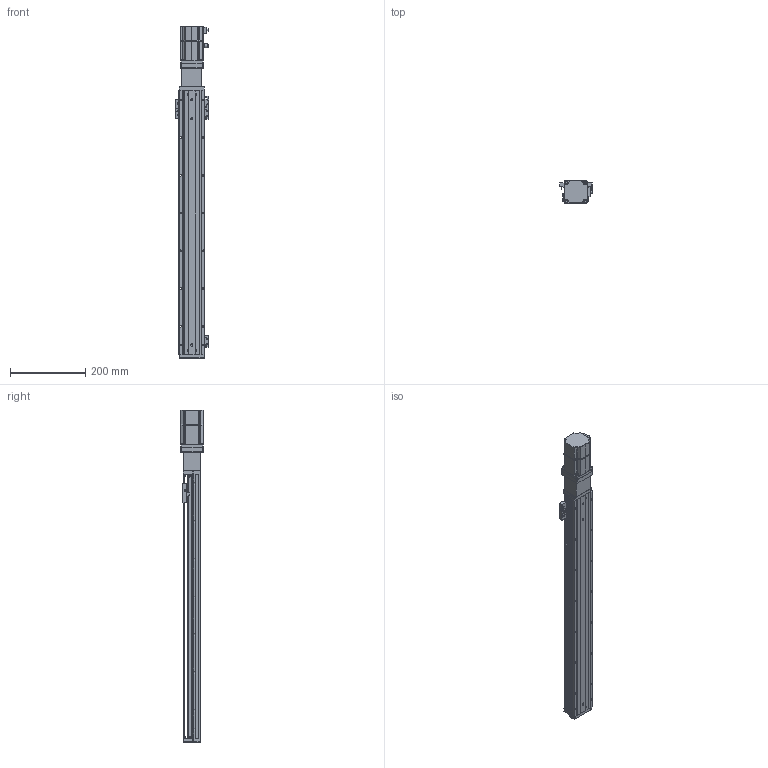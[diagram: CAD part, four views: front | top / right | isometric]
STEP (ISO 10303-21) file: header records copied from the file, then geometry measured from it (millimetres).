
FILE_DESCRIPTION (( 'STEP AP203' ), '1' );
FILE_NAME ('KTHA60-600-BC-M20-C4L.step', '2022-12-16T01:29:44', ( '微软用户' ), ( '微软中国' ), 'SwSTEP 2.0', 'SolidWorks 2020', '' );
FILE_SCHEMA (( 'CONFIG_CONTROL_DESIGN' ));
Length unit declared in the file: millimetre
Products named in the file (18): GBT 70.3-M3℅6; CTHA60-016; EE_SX911P_R; CTHA60-013; CTHA60-017; CTHA60-027; KTHA60-001_700; CTHA60-021; KTHA60-002; CTHA60-006-3_M20B; KTHA60-004; GBT 70.1-M4×16; _X2_4E0983F1_X0_200W_1; KTHA60-005; GBT77-2000M3-3; KTHA60-600-BC-M20-C4L; GB¨uT 70.2-M3¡Á5_M3¡Á6; GBT 70.1-M3℅6
Assembly tree (50 placements, depth 2):
  KTHA60-600-BC-M20-C4L
    KTHA60-001_700
    KTHA60-004
    KTHA60-005
    GB¨uT 70.2-M3¡Á5_M3¡Á6  x6
    GBT 70.3-M3℅6  x6
    EE_SX911P_R  x3
    CTHA60-017  x3
    CTHA60-021  x2
    GBT 70.1-M4×16  x8
    GBT77-2000M3-3  x6
    GBT 70.1-M3℅6  x6
    CTHA60-016  x2
    CTHA60-013
    CTHA60-027
    KTHA60-002
    CTHA60-006-3_M20B
    _X2_4E0983F1_X0_200W_1
Bounding box: 87.72 x 62.42 x 879.7 mm (x, y, z)
Volume: 1642857.4 mm3; surface area: 399476 mm2
Topology: 53 solids, 53 shells, 2335 faces, 5539 edges, 3392 vertices
Faces by surface type: plane 1268, cylinder 600, cone 302, torus 80, bspline 69, sphere 16
Entity records: 41477 total; most frequent: CARTESIAN_POINT 8016, DIRECTION 6488, ORIENTED_EDGE 6282, EDGE_CURVE 3141, AXIS2_PLACEMENT_3D 2217, VECTOR 2054, LINE 2054, VERTEX_POINT 1959
